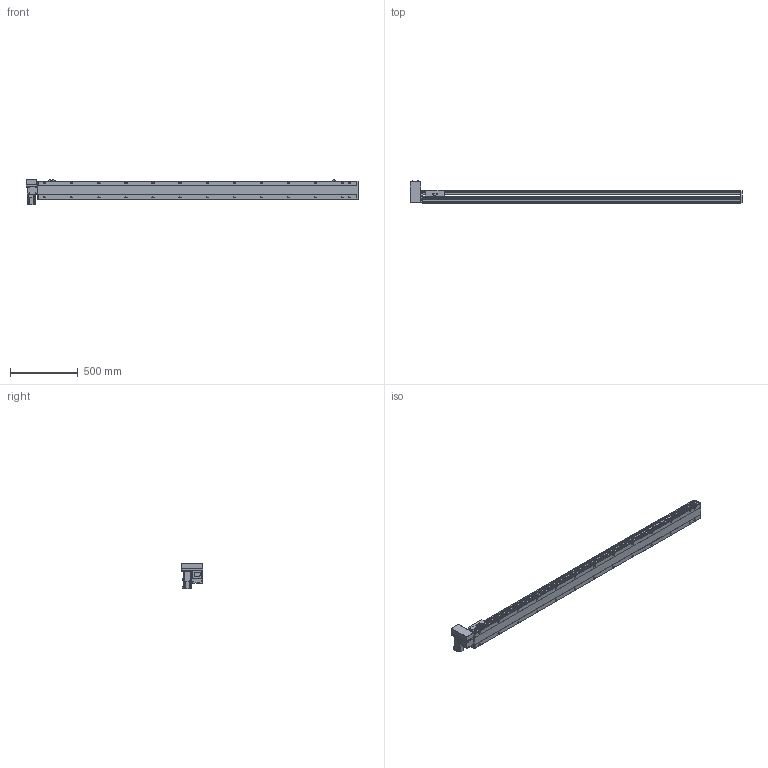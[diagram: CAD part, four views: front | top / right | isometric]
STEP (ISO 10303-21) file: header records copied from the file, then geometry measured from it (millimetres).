
FILE_DESCRIPTION( ( 'STEP AP214' ), '1' );
FILE_NAME( 'x:/temp/worker_6/temp/exporttempdir_5396_225_XsRgT/format_0/PBS140S-P40-S2100-RU-T40-C1-N(0).stp', '2022-06-09T00:56:22', ( 'License CC BY-ND 4.0' ), ( 'CADENAS' ), ' ', 'PARTsolutions', ' ' );
FILE_SCHEMA( ( 'AUTOMOTIVE_DESIGN { 1 0 10303 214 1 1 1 1 }' ) );
Length unit declared in the file: millimetre
Products named in the file (7): PBS140S-P40-S2100-RU-T40-C1-N(0); _PBS140S-S2100()_body; _PBS140ST-RU_motors; _T40-p1; _PBS140S_sliser; _PBS140S_plant; _PBS140S_sensor
Assembly tree (8 placements, depth 2):
  PBS140S-P40-S2100-RU-T40-C1-N(0)
    _PBS140S-S2100()_body
    _PBS140ST-RU_motors
    _T40-p1
    _PBS140S_sliser
    _PBS140S_plant
    _PBS140S_sensor  x3
Bounding box: 2454 x 162.5 x 189.7 mm (x, y, z)
Volume: 12046912 mm3; surface area: 2039446.9 mm2
Topology: 8 solids, 8 shells, 1179 faces, 3111 edges, 2035 vertices
Faces by surface type: plane 732, cylinder 385, cone 52, sphere 8, torus 2
Full cylindrical faces by diameter (mm): 3.242 x4, 4 x2, 4.134 x4, 4.4 x8, 4.5 x2, 4.8 x4, 4.917 x34, 5.5 x7, 6 x2, 7 x28, 7.5 x8, 8 x12, 8.5 x4, 10.5 x26, 14 x1, 30 x2, 50 x2
Entity records: 43546 total; most frequent: CARTESIAN_POINT 7246, DIRECTION 5698, ORIENTED_EDGE 5362, EDGE_CURVE 2681, AXIS2_PLACEMENT_3D 2009, VERTEX_POINT 1873, LINE 1680, VECTOR 1680
